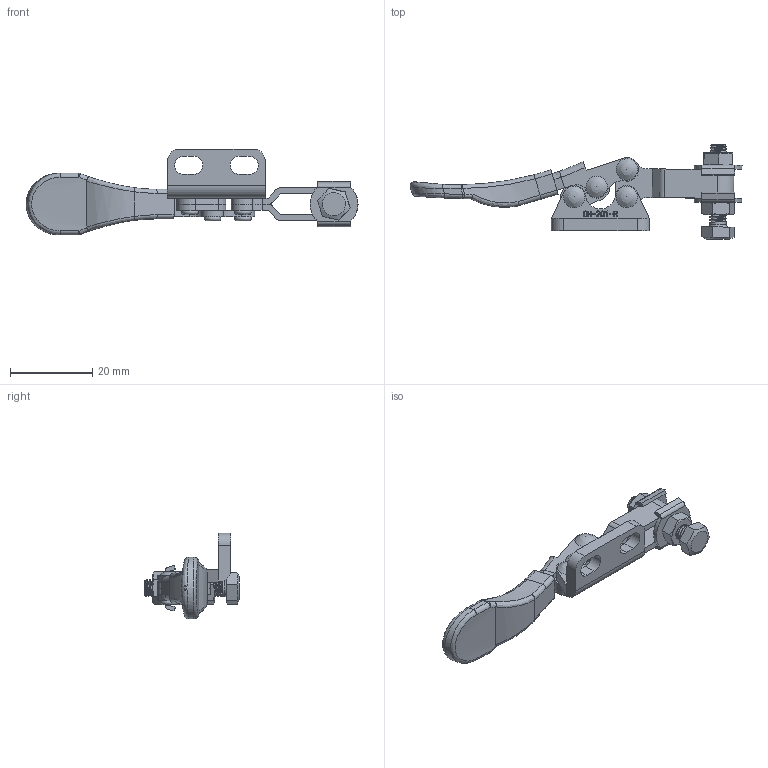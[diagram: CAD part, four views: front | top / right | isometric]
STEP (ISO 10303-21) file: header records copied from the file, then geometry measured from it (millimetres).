
FILE_DESCRIPTION(/* description */ ('STEP AP203'),/* implementation_level */ '2;1');
FILE_NAME(/* name */ 'E:\STRONA\Horizontal toggle clamp\CH-201-R\CH-201-R_ZAMKNIETY.stp',/* time_stamp */ '2019-01-15T13:19:41+01:00',/* author */ ('Admin'),/* organization */ ('·L?¤¤?'),/* preprocessor_version */ 'ST-DEVELOPER v17.2',/* originating_system */ 'Autodesk Inventor 2019',/* authorisation */ '');
FILE_SCHEMA (('AUTOMOTIVE_DESIGN { 1 0 10303 214 3 1 1 }'));
Products named in the file (11): CH-201-R_ZAMKNIETY; 201-02___; CH-SA-042007___; M4___; CH-FW-080___; 201-R-01___; 201-06___; 201-A-04___; 201-03___; 201-05___; 201-A-03___
Assembly tree (16 placements, depth 3):
  CH-201-R_ZAMKNIETY
    201-02___
    201-06___  x4
    CH-SA-042007___
    M4___  x2
    201-A-04___  x2
    CH-FW-080___  x2
    201-R-01___
    201-03___
      201-05___
      201-A-03___
Bounding box: 80.61 x 23.03 x 20.86 mm (x, y, z)
Volume: 4567 mm3; surface area: 8036.2 mm2
Topology: 16 solids, 16 shells, 642 faces, 1755 edges, 1169 vertices
Faces by surface type: plane 275, bspline 195, cylinder 133, torus 19, cone 14, sphere 6
Full cylindrical faces by diameter (mm): 0.7 x1, 1.1 x1, 2.4 x4, 3 x18, 3.2 x4, 4 x26, 4.3 x2
Entity records: 47867 total; most frequent: CARTESIAN_POINT 33989, ORIENTED_EDGE 3168, DIRECTION 2176, EDGE_CURVE 1584, VERTEX_POINT 1056, LINE 846, VECTOR 846, AXIS2_PLACEMENT_3D 665
